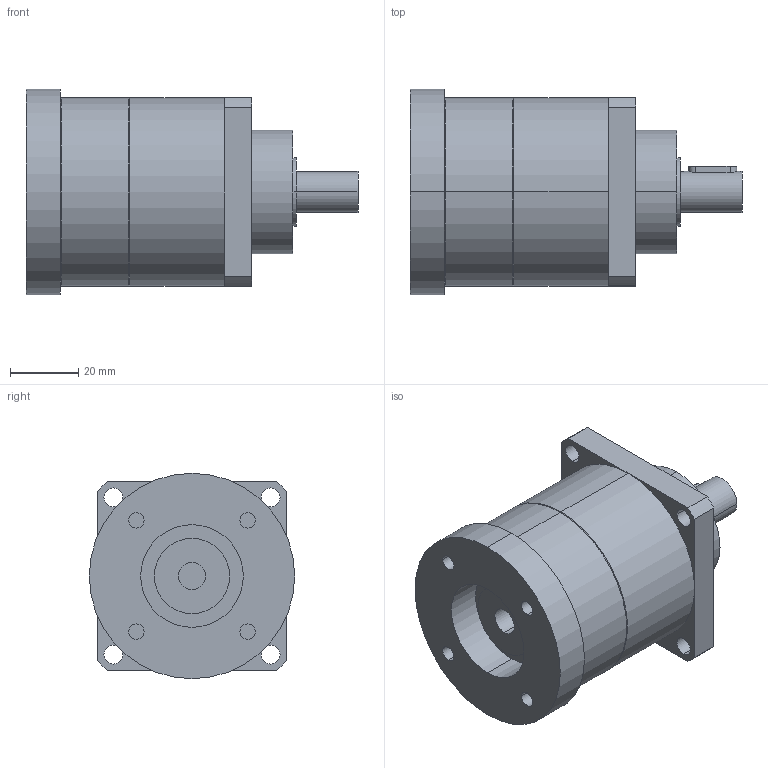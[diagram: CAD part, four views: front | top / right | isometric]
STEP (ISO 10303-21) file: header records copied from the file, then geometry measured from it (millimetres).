
FILE_DESCRIPTION(('CoCreate Modeling STEP Export'),'2;1');
FILE_NAME('GPT55_ig-3-4-5-7-10_12_B5A_8_P21.stp','2014-08-25T14:34:26',(''),(''),'CoCreate Modeling STEP processor for AP214 (Solid Model)','CoCreate Modeling 16.00C 25-Feb-2009 (C) Parametric Technology GmbH','');
FILE_SCHEMA(('AUTOMOTIVE_DESIGN { 1 0 10303 214 1 1 1 1 }'));
Length unit declared in the file: millimetre
Products named in the file (2): GPT55_ig-3-4-5-7-10_12_B5A_8_P21
Assembly tree (1 placements, depth 2):
  GPT55_ig-3-4-5-7-10_12_B5A_8_P21
    GPT55_ig-3-4-5-7-10_12_B5A_8_P21
Bounding box: 97 x 60 x 60 mm (x, y, z)
Volume: 172424.7 mm3; surface area: 23894 mm2
Topology: 1 solids, 1 shells, 72 faces, 181 edges, 124 vertices
Faces by surface type: cylinder 42, plane 26, cone 4
Entity records: 2242 total; most frequent: CARTESIAN_POINT 662, ORIENTED_EDGE 362, DIRECTION 268, EDGE_CURVE 181, VERTEX_POINT 124, AXIS2_PLACEMENT_3D 100, EDGE_LOOP 93, FACE_OUTER_BOUND 72
